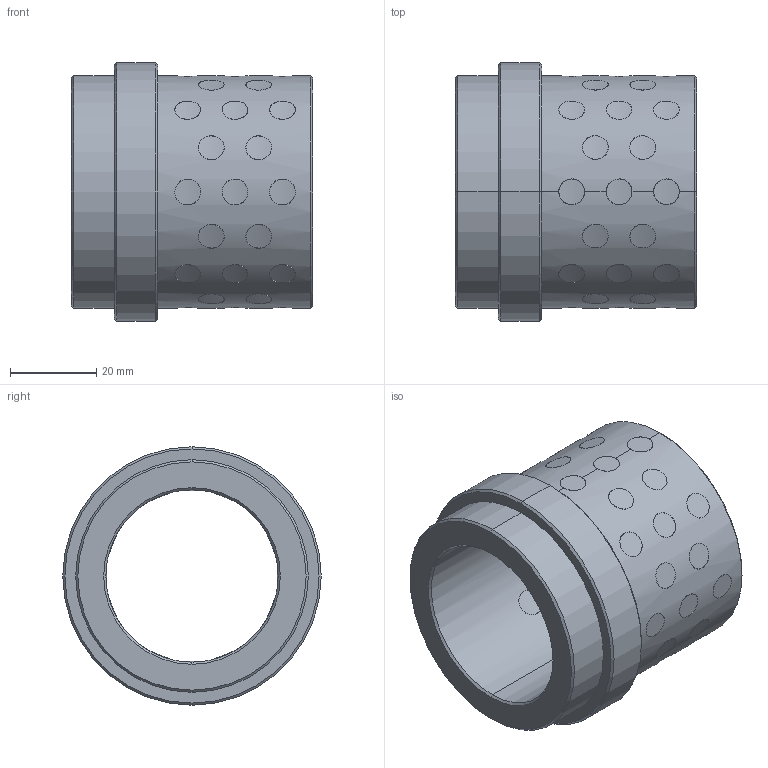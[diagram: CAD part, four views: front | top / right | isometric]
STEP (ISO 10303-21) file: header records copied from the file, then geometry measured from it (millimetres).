
FILE_DESCRIPTION((''),'2;1');
FILE_NAME('G31240046','2017-12-31T',('MANU'),(''),'PRO/ENGINEER BY PARAMETRIC TECHNOLOGY CORPORATION, 2012130','PRO/ENGINEER BY PARAMETRIC TECHNOLOGY CORPORATION, 2012130','');
FILE_SCHEMA(('CONFIG_CONTROL_DESIGN'));
Length unit declared in the file: millimetre
Products named in the file (1): G31240046
Bounding box: 56 x 60 x 60 mm (x, y, z)
Volume: 63000.2 mm3; surface area: 30101.3 mm2
Topology: 41 solids, 41 shells, 264 faces, 564 edges, 372 vertices
Faces by surface type: cylinder 248, cone 12, plane 4
Entity records: 12938 total; most frequent: CARTESIAN_POINT 7724, ORIENTED_EDGE 1128, DIRECTION 776, EDGE_CURVE 564, VERTEX_POINT 372, B_SPLINE_CURVE_WITH_KNOTS 344, EDGE_LOOP 336, AXIS2_PLACEMENT_3D 292
